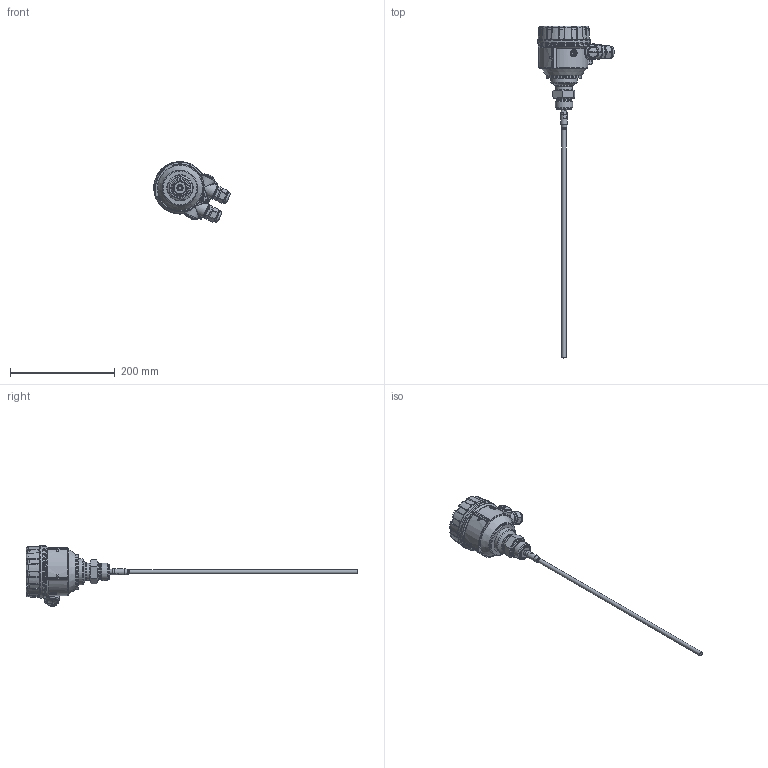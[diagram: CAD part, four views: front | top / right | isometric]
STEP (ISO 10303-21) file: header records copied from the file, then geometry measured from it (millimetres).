
FILE_DESCRIPTION(/* description */ (''),/* implementation_level */ '2;1');
FILE_NAME(/* name */ 'I:\Raj\3D\készülék rajzok\Összeállított készülékek\HT\HBR_7.stp',/* time_stamp */ '2022-08-24T14:51:00+02:00',/* author */ ('zcserhati'),/* organization */ (''),/* preprocessor_version */ 'ST-DEVELOPER v15.6',/* originating_system */ 'Autodesk Inventor 2015',/* authorisation */ '');
FILE_SCHEMA (('AUTOMOTIVE_DESIGN { 1 0 10303 214 3 1 1 }'));
Length unit declared in the file: millimetre
Products named in the file (26): RKH_1_1.0001; ZARO; SB_külső; U_Alát; DIN 128 - A4; DIN 7985 (Z) - M4x8-Z; Tlem_egy; adattabla; Szegecs; SZERELTHAZ; Alu_alacsony_uveg; HTK_HFogl_Welds; HTK_Csatl; HTK_Agy; HTK_HFogl; teflonbetét; ellenanya; Heg_rúd_Welds; Rúdvég; Rud; Heg_rúd; Tomsz; Alatet; Gumidugo; Tomszel_sz; HBR_7
Bounding box: 145.83 x 633.3 x 115.79 mm (x, y, z)
Volume: 300783 mm3; surface area: 153377.2 mm2
Topology: 28 solids, 28 shells, 1224 faces, 2957 edges, 1792 vertices
Faces by surface type: plane 348, bspline 330, cylinder 320, torus 89, cone 81, sphere 56
Full cylindrical faces by diameter (mm): 3 x6, 3.2 x2, 3.242 x1, 3.4 x2, 3.5 x5, 3.65 x1, 3.9 x1, 4 x1, 4.1 x1, 4.3 x1, 5.9 x1, 6 x2, 8 x4, 10 x3, 12 x1, 12.5 x4, 14 x2, 17 x3, 18.15 x7, 18.3 x12, 20 x10, 23.5 x2, 24.5 x1, 25 x2, 26 x2, 27.5 x2, 28 x1, 30 x2, 32 x3, 32.5 x1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
Entity records: 48159 total; most frequent: CARTESIAN_POINT 23664, ORIENTED_EDGE 5010, DIRECTION 4449, EDGE_CURVE 2503, AXIS2_PLACEMENT_3D 1879, VERTEX_POINT 1604, EDGE_LOOP 1351, FACE_OUTER_BOUND 1129
